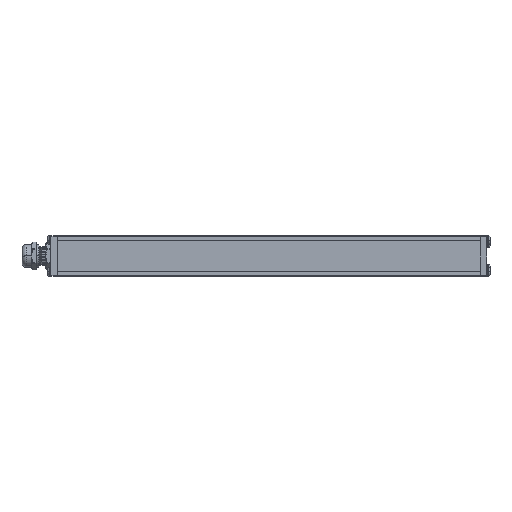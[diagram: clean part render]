
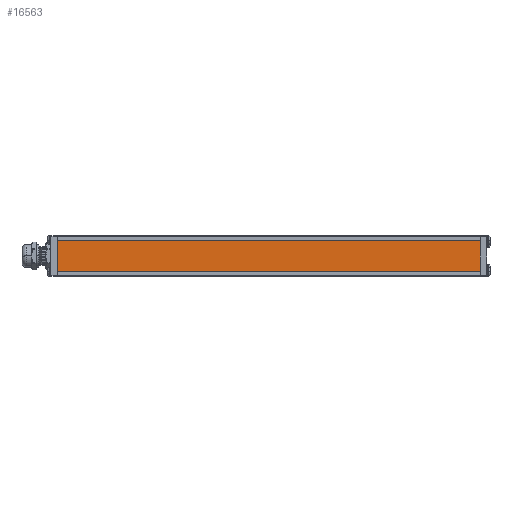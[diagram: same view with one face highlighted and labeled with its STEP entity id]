
A CAD part, top view. The second image highlights one B-rep face of the part: STEP entity #16563.
In plain terms, the highlighted planar face has unit normal (0, 0, 1) as drawn and (0, 1, 0) by its records, which use the part's own axes.
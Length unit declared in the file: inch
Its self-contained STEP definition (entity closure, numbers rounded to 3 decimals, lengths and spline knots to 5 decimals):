
#1358 = LINE ( 'NONE', #30161, #27466 ) ;
#2273 = VERTEX_POINT ( 'NONE', #5819 ) ;
#2770 = DIRECTION ( 'NONE',  ( 0., -1., 0. ) ) ;
#2825 = VECTOR ( 'NONE', #19703, 39.37008 ) ;
#5819 = CARTESIAN_POINT ( 'NONE',  ( -4.135, 0.03, -0.344 ) ) ;
#7754 = VECTOR ( 'NONE', #23187, 39.37008 ) ;
#8394 = FACE_OUTER_BOUND ( 'NONE', #21227, .T. ) ;
#8456 = VECTOR ( 'NONE', #23016, 39.37008 ) ;
#9904 = LINE ( 'NONE', #12212, #2825 ) ;
#12151 = CARTESIAN_POINT ( 'NONE',  ( 4.135, 0.03, 0.344 ) ) ;
#12212 = CARTESIAN_POINT ( 'NONE',  ( 4.135, 0.03, -0.344 ) ) ;
#12360 = AXIS2_PLACEMENT_3D ( 'NONE', #12151, #2770, #29181 ) ;
#12461 = ORIENTED_EDGE ( 'NONE', *, *, #14898, .F. ) ;
#14488 = VERTEX_POINT ( 'NONE', #19006 ) ;
#14898 = EDGE_CURVE ( 'NONE', #22413, #14488, #1358, .T. ) ;
#16563 = ADVANCED_FACE ( 'NONE', ( #8394 ), #22065, .F. ) ;
#16801 = VERTEX_POINT ( 'NONE', #26020 ) ;
#18147 = LINE ( 'NONE', #20597, #8456 ) ;
#18706 = ORIENTED_EDGE ( 'NONE', *, *, #19968, .T. ) ;
#19006 = CARTESIAN_POINT ( 'NONE',  ( -4.135, 0.03, 0.344 ) ) ;
#19703 = DIRECTION ( 'NONE',  ( -1., 0., 0. ) ) ;
#19968 = EDGE_CURVE ( 'NONE', #2273, #14488, #25237, .T. ) ;
#20076 = CARTESIAN_POINT ( 'NONE',  ( 4.135, 0.03, 0.344 ) ) ;
#20239 = EDGE_CURVE ( 'NONE', #16801, #22413, #18147, .T. ) ;
#20597 = CARTESIAN_POINT ( 'NONE',  ( 4.135, 0.03, 0.344 ) ) ;
#21227 = EDGE_LOOP ( 'NONE', ( #18706, #12461, #25972, #30321 ) ) ;
#22065 = PLANE ( 'NONE',  #12360 ) ;
#22413 = VERTEX_POINT ( 'NONE', #20076 ) ;
#23016 = DIRECTION ( 'NONE',  ( 0., 0., 1. ) ) ;
#23187 = DIRECTION ( 'NONE',  ( 0., 0., 1. ) ) ;
#25237 = LINE ( 'NONE', #25535, #7754 ) ;
#25535 = CARTESIAN_POINT ( 'NONE',  ( -4.135, 0.03, 0.344 ) ) ;
#25972 = ORIENTED_EDGE ( 'NONE', *, *, #20239, .F. ) ;
#26020 = CARTESIAN_POINT ( 'NONE',  ( 4.135, 0.03, -0.344 ) ) ;
#26785 = EDGE_CURVE ( 'NONE', #16801, #2273, #9904, .T. ) ;
#27466 = VECTOR ( 'NONE', #27677, 39.37008 ) ;
#27677 = DIRECTION ( 'NONE',  ( -1., 0., 0. ) ) ;
#29181 = DIRECTION ( 'NONE',  ( 0., 0., -1. ) ) ;
#30161 = CARTESIAN_POINT ( 'NONE',  ( 4.135, 0.03, 0.344 ) ) ;
#30321 = ORIENTED_EDGE ( 'NONE', *, *, #26785, .T. ) ;
